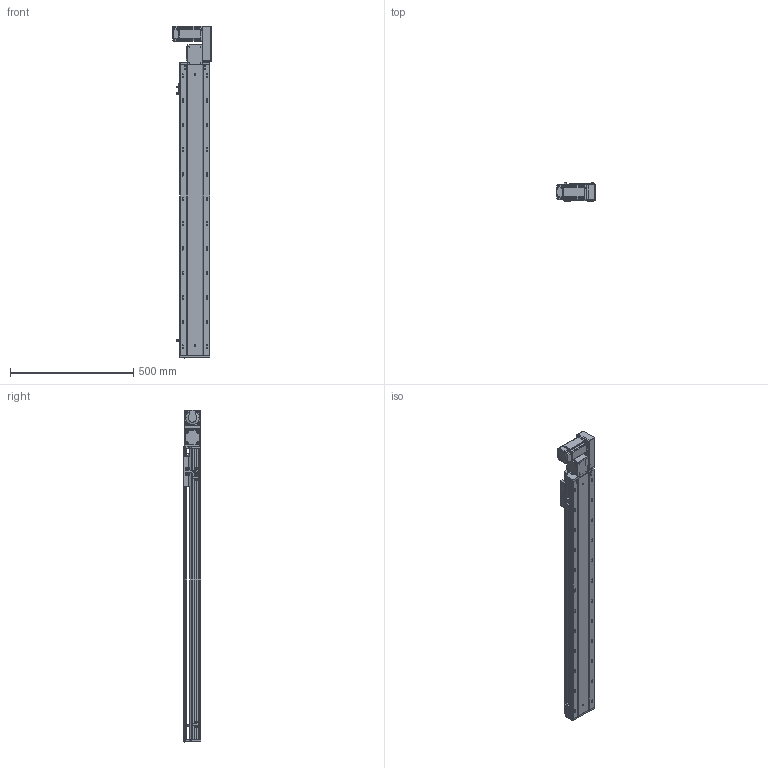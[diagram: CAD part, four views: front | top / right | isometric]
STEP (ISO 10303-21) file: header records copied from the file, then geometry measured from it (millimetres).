
FILE_DESCRIPTION (( 'STEP AP203' ), '1' );
FILE_NAME ('RY120-T-300-RK.SLDASM_950.step', '2021-03-01T03:53:32', ( '盈信电脑' ), ( '东莞市道滘镇水果街19号' ), 'SwSTEP 2.0', 'SolidWorks 2012', '' );
FILE_SCHEMA (( 'CONFIG_CONTROL_DESIGN' ));
Length unit declared in the file: millimetre
Products named in the file (17): RY120-T-300-RK.SLDASM_950; RY120-T蹟翐M4; RY120-T主同步轮轴承压盖; RY120-T萇儂欶; RY120-T萇儂假蚾啣; RY120-T翋肮祭盓傅釱; RY120-T翋肮祭謫裔啣; 滅袉蝶18-10; 15; RY120外置感应片(140共用）; RY120-T肮祭湍揤踡輸1; RY120-T肮祭湍揤踡輸2; RY120-T-300-RK倰第奻裔啣_950; 覜茼ん672; RY120綴裔啣; RY120肮祭湍臏賑輸; RY120-T-300-RK倰第菁釱_950
Assembly tree (22 placements, depth 2):
  RY120-T-300-RK.SLDASM_950
    RY120-T-300-RK倰第菁釱_950
    RY120-T-300-RK倰第奻裔啣_950
    RY120肮祭湍臏賑輸
    RY120綴裔啣
    覜茼ん672  x3
    RY120外置感应片(140共用）
    RY120-T肮祭湍揤踡輸1
    RY120-T肮祭湍揤踡輸2
    RY120-T翋肮祭盓傅釱
    滅袉蝶18-10  x2
    RY120-T翋肮祭謫裔啣
    15
    RY120-T萇儂假蚾啣
    RY120-T蹟翐M4  x4
    RY120-T萇儂欶
    RY120-T主同步轮轴承压盖
Bounding box: 155.5 x 73 x 1347.5 mm (x, y, z)
Volume: 3499203.2 mm3; surface area: 1309203.1 mm2
Topology: 23 solids, 23 shells, 3022 faces, 8324 edges, 5356 vertices
Faces by surface type: plane 1466, cylinder 1210, cone 257, bspline 89
Entity records: 98663 total; most frequent: CARTESIAN_POINT 26442, ORIENTED_EDGE 15080, DIRECTION 13986, EDGE_CURVE 7540, VERTEX_POINT 4943, AXIS2_PLACEMENT_3D 4719, LINE 4548, VECTOR 4548
